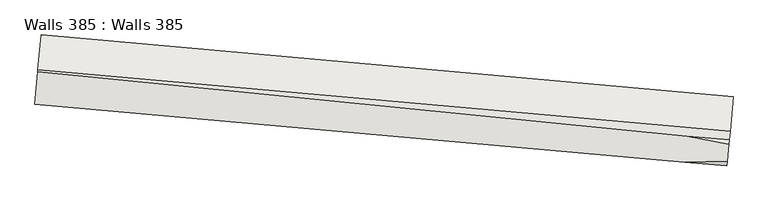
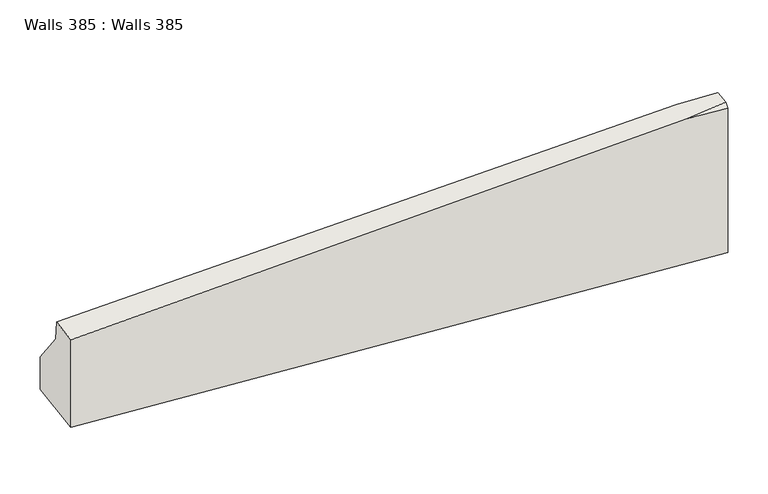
"""IFC4 building model written with IfcOpenShell, lengths in millimetres: wall geometry, Walls 385 : Walls 385."""

from ifc_helpers import new_model, si_unit, origin, place, context, project, spatial, faceted_brep, source, transform, mapped, element, save


def walls_385_walls_385_f4536e13(model_context):
    return source(origin(), model_context, "Body", "Brep", [
        faceted_brep([(-626822.9916228, -422836.0276076, 637180.0), (-626840.7390878, -423035.2386201, 637430.0), (-626845.175954, -423085.0413732, 637935.0), (-626847.3943872, -423109.9427497, 637960.0), (-626856.2681197, -423209.548256, 637960.0), (-626858.4865528, -423234.4496325, 637935.0), (-626858.4865528, -423234.4496325, 636960.0), (-626822.9916228, -422836.0276076, 636960.0), (-630807.211872, -422481.078307, 637180.0), (-630807.211872, -422481.078307, 636960.0), (-630842.706802, -422879.5003319, 636960.0), (-630842.706802, -422879.5003319, 637550.0), (-630826.0136418, -422692.123637, 637550.0), (-630824.959337, -422680.2893194, 637430.0), (-627088.1162131, -423063.3981231, 637935.0), (-627101.4268119, -423212.8063825, 637935.0)], [[[0, 1, 2, 3, 4, 5, 6, 7]], [[8, 9, 10, 11, 12, 13]], [[1, 0, 8, 13]], [[2, 1, 13, 12, 14]], [[3, 2, 14]], [[5, 4, 15]], [[6, 5, 15, 11, 10]], [[7, 6, 10, 9]], [[0, 7, 9, 8]], [[4, 3, 14, 12, 11, 15]]]),
    ])


if __name__ == "__main__":
    model = new_model("IFC4")
    model_context = context("Model", 3, world=origin())
    ifc_project = project(units=[si_unit("LENGTHUNIT", "METRE", prefix="MILLI")], contexts=[model_context])
    site = spatial("IfcSite", under=ifc_project)
    building = spatial("IfcBuilding", under=site)
    placement = place(None, origin())
    walls_385_walls_385_shape = walls_385_walls_385_f4536e13(model_context)
    element("IfcWall", 1, ObjectType="Walls 385 : Walls 385", at=placement, inside=building, context=model_context, shape_type="MappedRepresentation", body=[
        mapped(walls_385_walls_385_shape, transform((0.0, 0.0, 0.0), x_axis=(1.0, 0.0, 0.0), y_axis=(0.0, 1.0, 0.0), z_axis=(0.0, 0.0, 1.0))),
    ])
    save(model, "model.ifc")
